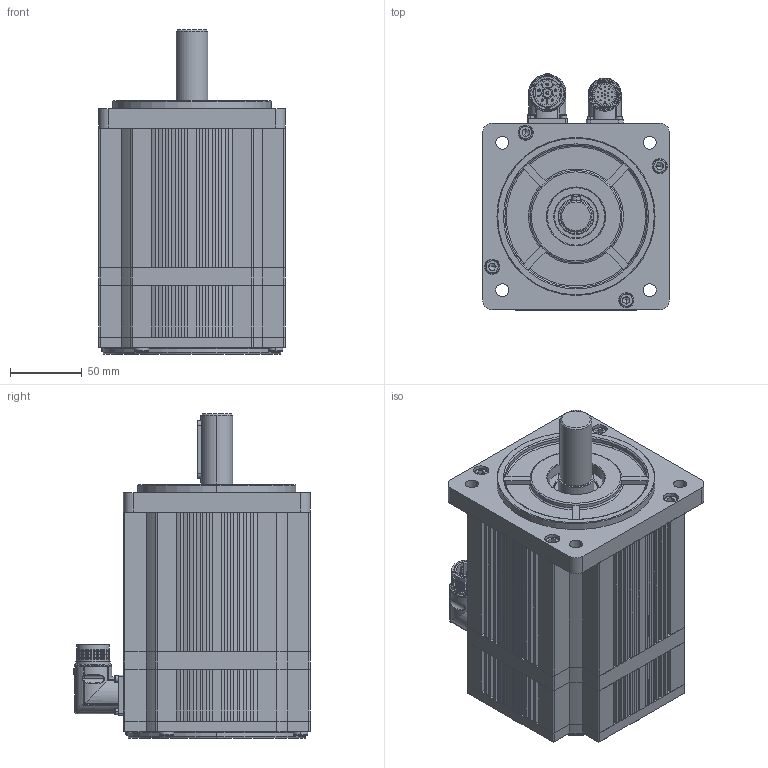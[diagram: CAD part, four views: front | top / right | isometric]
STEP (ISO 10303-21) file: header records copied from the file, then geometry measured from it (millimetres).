
FILE_DESCRIPTION (( 'STEP AP214' ), '1' );
FILE_NAME ('SMC130D-0100-10MAK-5LSP.STEP', '2022-09-14T05:38:03', ( '' ), ( '' ), 'SwSTEP 2.0', 'SolidWorks 2018', '' );
FILE_SCHEMA (( 'AUTOMOTIVE_DESIGN' ));
Length unit declared in the file: millimetre
Products named in the file (12): 綴傷裔; 儂褲; hexagon socket head cap screws gb_GB_FASTENER_SCREWS_HSHCS M6X55-N; hexagon socket head cap screws gb_GB_FASTENER_SCREWS_HSHCS M2.5X8-N; 郋弊莉陓瘍菁釱; 郋弊莉萇埭菁釱; ヶ傷裔; ぱ籵A倰瑩; hexagon socket head cap screws gb_GB_FASTENER_SCREWS_HSHCS M6X20-N; 鎢攫欶綴裔; SMC130D-0100-10MAK-5LSP; 鎢攫欶褲极
Assembly tree (24 placements, depth 2):
  SMC130D-0100-10MAK-5LSP
    ヶ傷裔
    儂褲
    綴傷裔
    鎢攫欶褲极
    鎢攫欶綴裔
    郋弊莉萇埭菁釱
    郋弊莉陓瘍菁釱
    hexagon socket head cap screws gb_GB_FASTENER_SCREWS_HSHCS M2.5X8-N  x8
    hexagon socket head cap screws gb_GB_FASTENER_SCREWS_HSHCS M6X55-N  x4
    ぱ籵A倰瑩
    hexagon socket head cap screws gb_GB_FASTENER_SCREWS_HSHCS M6X20-N  x4
Bounding box: 130 x 164.5 x 226 mm (x, y, z)
Volume: 2600292.8 mm3; surface area: 326287.5 mm2
Topology: 48 solids, 48 shells, 1859 faces, 4699 edges, 2975 vertices
Faces by surface type: plane 842, cylinder 778, cone 90, torus 90, sphere 46, bspline 13
Entity records: 59096 total; most frequent: CARTESIAN_POINT 10417, DIRECTION 8403, ORIENTED_EDGE 7714, EDGE_CURVE 3857, AXIS2_PLACEMENT_3D 3146, VERTEX_POINT 2500, VECTOR 2111, LINE 2111
